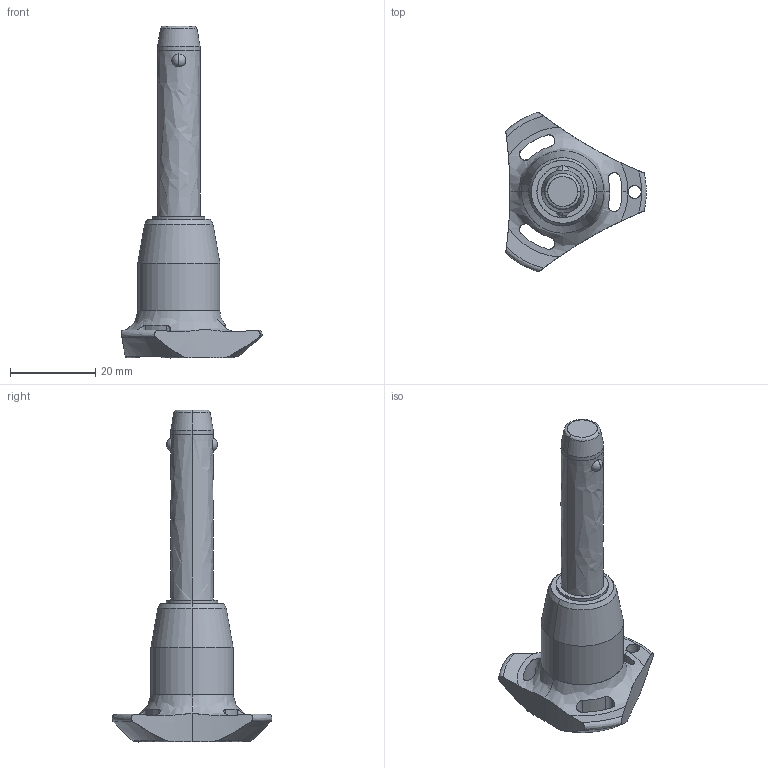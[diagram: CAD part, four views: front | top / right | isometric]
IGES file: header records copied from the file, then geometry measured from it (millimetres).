
Start section: SolidWorks IGES file using analytic representation for surfaces
Global section: file name: C:\Users\ianosborn\Desktop\QR1726_v2\QR1726_v2_20251115_IGES\QR1726.M10-035-T.igs; native system: SolidWorks 2019; preprocessor: SolidWorks 2019; author: IanOsborn; date: 251113.110946; units: millimetre
Bounding box: 33 x 37.51 x 77.9 mm (x, y, z)
Surface area: 5264.2 mm2 (no closed solid volume)
Topology: 0 solids, 0 shells, 68 faces, 1354 edges, 1350 vertices
Faces by surface type: revolution 52, bspline 16
